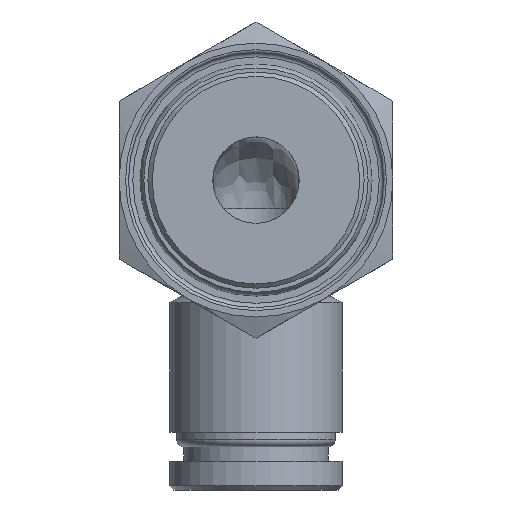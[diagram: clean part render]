
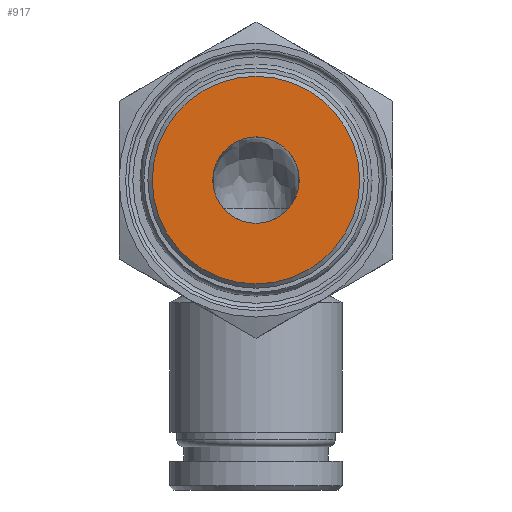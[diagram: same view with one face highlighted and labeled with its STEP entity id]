
A CAD part, front view. The second image highlights one B-rep face of the part: STEP entity #917.
In plain terms, the highlighted planar face has unit normal (0, -1, 0).
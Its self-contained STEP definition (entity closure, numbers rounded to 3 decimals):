
#77=FACE_BOUND('',#195,.T.);
#90=PLANE('',#1074);
#127=FACE_OUTER_BOUND('',#194,.T.);
#194=EDGE_LOOP('',(#663));
#195=EDGE_LOOP('',(#664));
#346=CIRCLE('',#1073,7.2);
#347=CIRCLE('',#1075,3.);
#417=VERTEX_POINT('',#1563);
#418=VERTEX_POINT('',#1567);
#508=EDGE_CURVE('',#417,#417,#346,.T.);
#509=EDGE_CURVE('',#418,#418,#347,.T.);
#663=ORIENTED_EDGE('',*,*,#508,.F.);
#664=ORIENTED_EDGE('',*,*,#509,.T.);
#917=ADVANCED_FACE('',(#127,#77),#90,.T.);
#1073=AXIS2_PLACEMENT_3D('',#1565,#1254,#1255);
#1074=AXIS2_PLACEMENT_3D('',#1566,#1256,#1257);
#1075=AXIS2_PLACEMENT_3D('',#1568,#1258,#1259);
#1254=DIRECTION('center_axis',(0.,1.,0.));
#1255=DIRECTION('ref_axis',(0.,0.,-1.));
#1256=DIRECTION('center_axis',(0.,-1.,0.));
#1257=DIRECTION('ref_axis',(0.,0.,-1.));
#1258=DIRECTION('center_axis',(0.,1.,0.));
#1259=DIRECTION('ref_axis',(1.,0.,0.));
#1563=CARTESIAN_POINT('',(0.,-14.7,7.2));
#1565=CARTESIAN_POINT('Origin',(0.,-14.7,0.));
#1566=CARTESIAN_POINT('Origin',(0.,-14.7,7.5));
#1567=CARTESIAN_POINT('',(-3.,-14.7,0.));
#1568=CARTESIAN_POINT('Origin',(0.,-14.7,0.));
